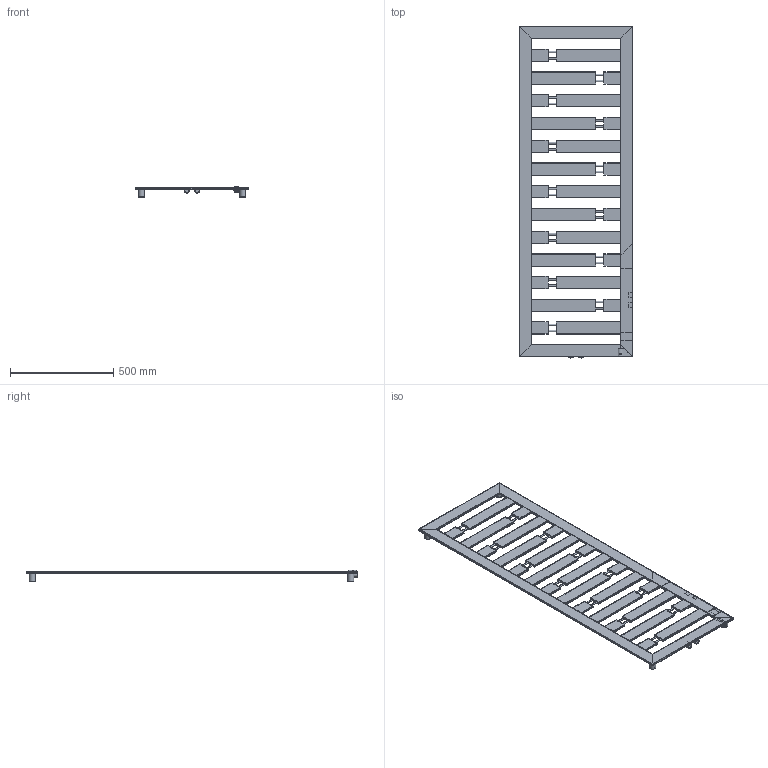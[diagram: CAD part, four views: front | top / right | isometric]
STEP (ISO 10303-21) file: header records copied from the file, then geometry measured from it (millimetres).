
FILE_DESCRIPTION( ( 'Unknown' ), '1' );
FILE_NAME( 'D:/Alplast sp. j/Witryna zespoBu - Projekty/Archiwum/Grzejniki Archiwum/Projekty/DESIGN PROGRAM/TENSOR/TENSOR 3.stp', 'Unknown', ( 'Unknown' ), ( 'Unknown' ), 'PSStep 10.1', 'Unknown', ' ' );
FILE_SCHEMA( ( 'AUTOMOTIVE_DESIGN { 1 0 10303 214 1 1 1 1 }' ) );
Length unit declared in the file: millimetre
Products named in the file (20): Assem1; kana³ poziomy L430; kana³ poziomu  60x10   L430; ³¹cznik kana³u poziomego 60x10 L430; ³¹cznik kana³u poziomego 60x10 L430-oa2; kana³ pionowy  60x10   L1600; kana³ pionowy  60x10   L1600-oa0; kana³ poziomy    górny  60x10   L550; kana³ poziomy    dolny  60x10   L550; mufa prz³aczeniowa; mufa prz³aczeniowa-oa1; sworzen wieszaka; sworzen wieszaka-oa3; sworzen wieszaka-oa4; sworzen wieszaka-oa5; tuleja wieszaka; tuleja wieszaka-oa6; tuleja wieszaka-oa7; tuleja wieszaka-oa8
Bounding box: 550 x 1605 x 55 mm (x, y, z)
Volume: 3075794.8 mm3; surface area: 3869045.6 mm2
Topology: 88 solids, 88 shells, 1550 faces, 3902 edges, 2494 vertices
Faces by surface type: plane 950, cylinder 564, cone 28, bspline 8
Full cylindrical faces by diameter (mm): 4.917 x8, 6 x30, 7 x120, 8 x30, 18.974 x4, 20 x8, 22 x8, 25 x4, 30 x8
Entity records: 15247 total; most frequent: CARTESIAN_POINT 2766, DIRECTION 1888, ORIENTED_EDGE 1828, EDGE_CURVE 914, LINE 684, VECTOR 684, AXIS2_PLACEMENT_3D 602, VERTEX_POINT 596
